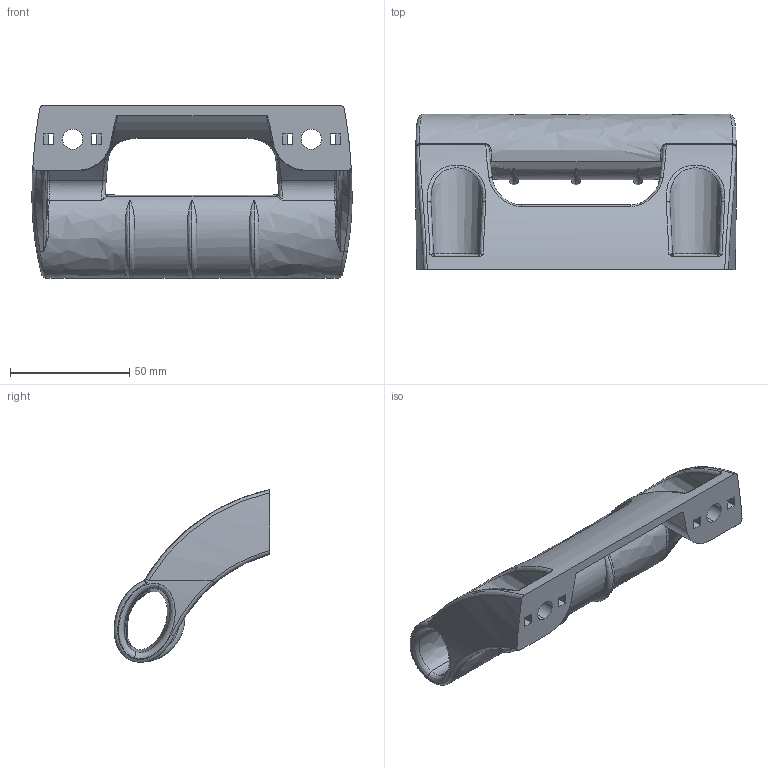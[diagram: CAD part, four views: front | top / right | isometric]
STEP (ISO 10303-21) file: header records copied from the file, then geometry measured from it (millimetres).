
FILE_DESCRIPTION (( 'STEP AP214' ), '1' );
FILE_NAME ('4.04.spmh.STEP', '2015-05-30T10:25:43', ( '' ), ( '' ), 'SwSTEP 2.0', 'SolidWorks 2015', '' );
FILE_SCHEMA (( 'AUTOMOTIVE_DESIGN' ));
Length unit declared in the file: millimetre
Products named in the file (1): 4.04.spmh
Bounding box: 134 x 65.18 x 72.21 mm (x, y, z)
Volume: 94373.1 mm3; surface area: 41908.4 mm2
Topology: 1 solids, 1 shells, 172 faces, 449 edges, 268 vertices
Faces by surface type: bspline 92, plane 41, cylinder 37, cone 2
Entity records: 13518 total; most frequent: CARTESIAN_POINT 10070, ORIENTED_EDGE 878, DIRECTION 478, EDGE_CURVE 439, VERTEX_POINT 268, B_SPLINE_CURVE_WITH_KNOTS 192, EDGE_LOOP 187, AXIS2_PLACEMENT_3D 175
